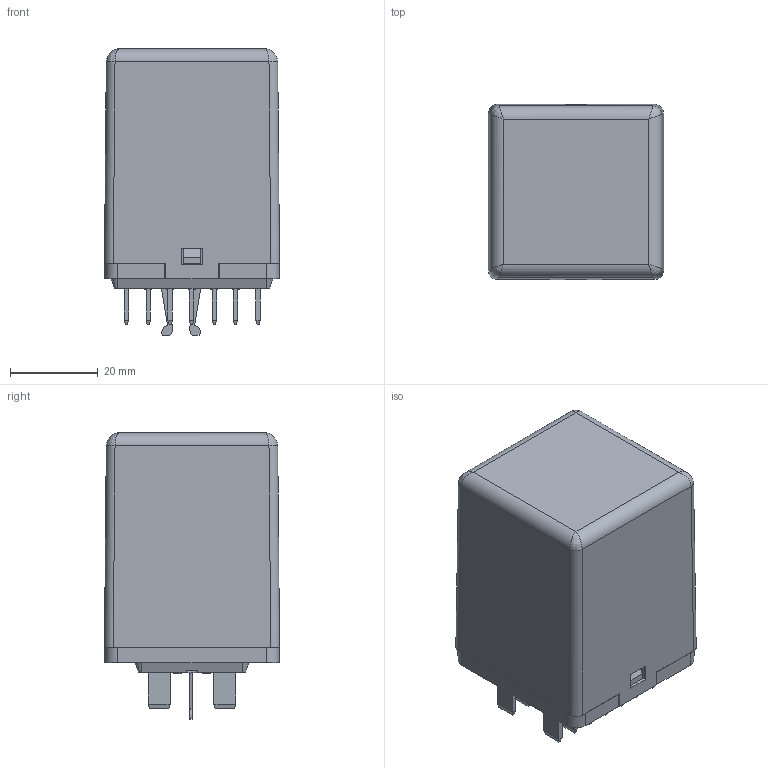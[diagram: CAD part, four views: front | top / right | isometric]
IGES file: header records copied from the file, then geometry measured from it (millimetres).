
Global section: file name: No Iges File Name specified; native system: Autodesk Inventor 2011; preprocessor: AutoDesk Inventor Iges Exporter R2011; author: oey; date: 20110309.084905; units: millimetre
Bounding box: 40 x 40.06 x 65.4 mm (x, y, z)
Volume: 41659.7 mm3; surface area: 44840.2 mm2
Topology: 2 solids, 16 shells, 2460 faces, 7165 edges, 4617 vertices
Faces by surface type: plane 1098, bspline 686, cylinder 318, revolution 240, torus 44, sphere 38, cone 36
